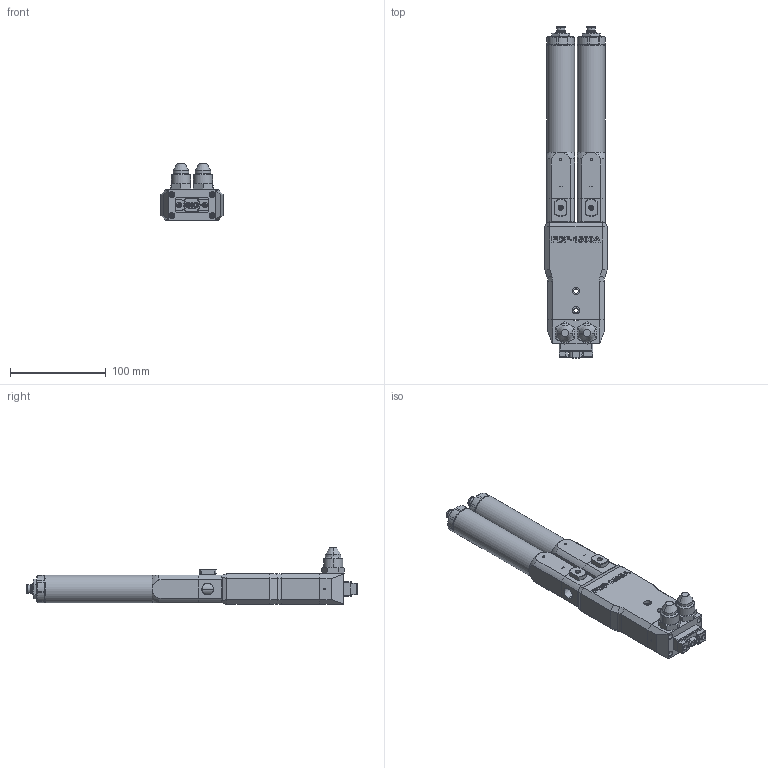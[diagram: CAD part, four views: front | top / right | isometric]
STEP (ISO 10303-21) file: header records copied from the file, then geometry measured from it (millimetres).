
FILE_DESCRIPTION (( 'STEP AP214' ), '1' );
FILE_NAME ('PDP-1500-1000BA.STEP', '2024-10-11T12:30:52', ( '' ), ( '' ), 'SwSTEP 2.0', 'SolidWorks 2024', '' );
FILE_SCHEMA (( 'AUTOMOTIVE_DESIGN' ));
Length unit declared in the file: millimetre
Products named in the file (1): PDP-1500-1000BA
Bounding box: 65 x 347 x 59.3 mm (x, y, z)
Volume: 526905.2 mm3; surface area: 127626.7 mm2
Topology: 13 solids, 13 shells, 1700 faces, 4346 edges, 2770 vertices
Faces by surface type: plane 824, cylinder 516, cone 315, bspline 27, torus 12, sphere 6
Full cylindrical faces by diameter (mm): 29 x2
Entity records: 68338 total; most frequent: CARTESIAN_POINT 27552, ORIENTED_EDGE 8618, DIRECTION 8268, EDGE_CURVE 4309, AXIS2_PLACEMENT_3D 2924, VERTEX_POINT 2769, LINE 2420, VECTOR 2420
